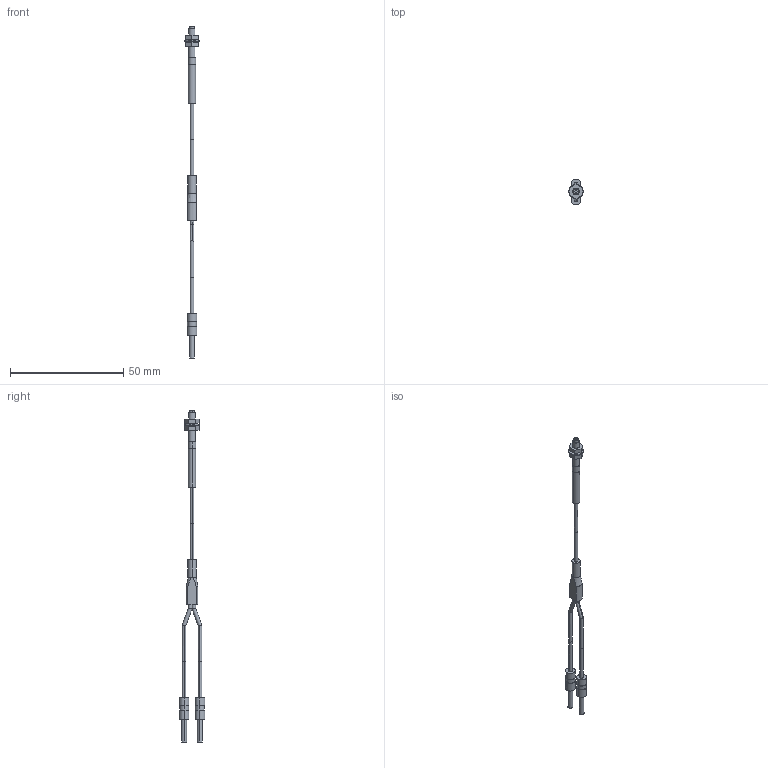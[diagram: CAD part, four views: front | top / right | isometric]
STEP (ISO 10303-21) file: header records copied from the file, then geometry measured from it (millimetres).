
FILE_DESCRIPTION (( 'STEP AP203' ), '1' );
FILE_NAME ('FD-EG1.STEP', '2005-09-04T09:21:45', ( '川島良英' ), ( ' ' ), 'SwSTEP 2.0', 'SolidWorks 2004251', '' );
FILE_SCHEMA (( 'CONFIG_CONTROL_DESIGN' ));
Length unit declared in the file: millimetre
Products named in the file (1): FD-EG1
Bounding box: 6.5 x 11.33 x 146.5 mm (x, y, z)
Volume: 1203.6 mm3; surface area: 1937.3 mm2
Topology: 7 solids, 7 shells, 104 faces, 214 edges, 140 vertices
Faces by surface type: cylinder 57, plane 45, cone 2
Entity records: 2893 total; most frequent: CARTESIAN_POINT 547, DIRECTION 506, ORIENTED_EDGE 428, EDGE_CURVE 214, AXIS2_PLACEMENT_3D 203, VERTEX_POINT 140, EDGE_LOOP 126, FACE_OUTER_BOUND 104
